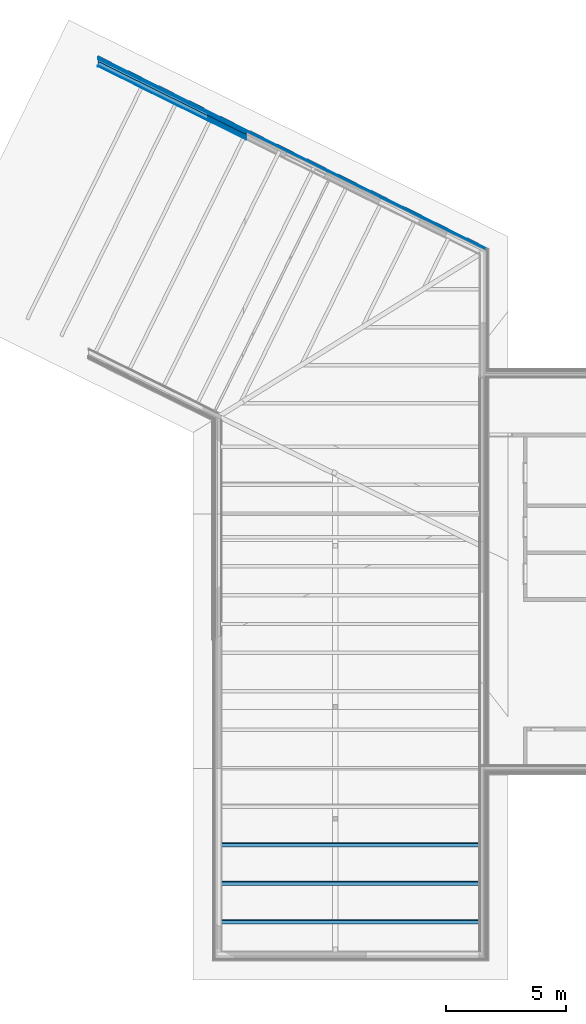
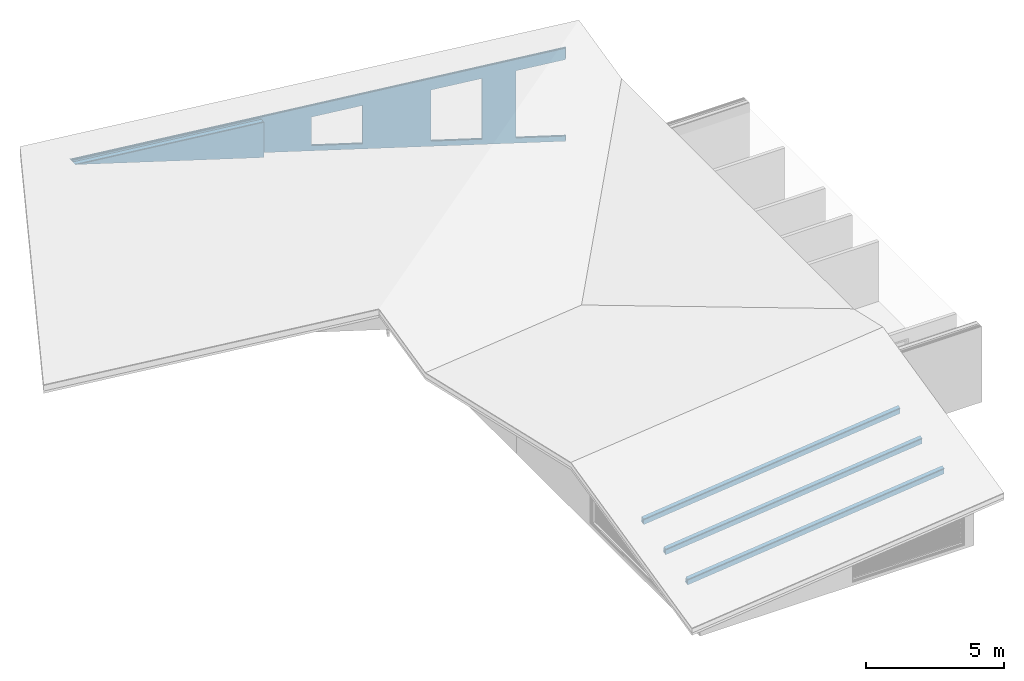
# One storey, part 9 of 14: 10 walls, 6 roofs, 9 openings.
"""IFC4 building model written with IfcOpenShell, lengths in metres."""

from ifc_helpers import new_model, entity, si_unit, converted_unit, derived_unit, frame, origin, origin_with_axes, place, context, subcontext, project, spatial, polyline, outline, extrude, clip, halfspace, bounded_halfspace, faceted_brep, material, element, save


model = new_model("IFC4")

# Units and contexts
model_context = context("Model", 3, precision=1e-05, world=origin())
body_context = subcontext(model_context, "Body", "Model", "MODEL_VIEW")
ifc_project = project(units=[si_unit("LENGTHUNIT", "METRE"), si_unit("AREAUNIT", "SQUARE_METRE"), si_unit("VOLUMEUNIT", "CUBIC_METRE"), si_unit("MASSUNIT", "GRAM", prefix="KILO"), converted_unit("PLANEANGLEUNIT", "DEGREE", entity("IfcPlaneAngleMeasure", 0.0174532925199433), si_unit("PLANEANGLEUNIT", "RADIAN"), dimensions=[0, 0, 0, 0, 0, 0, 0]), derived_unit("THERMALTRANSMITTANCEUNIT", [(si_unit("POWERUNIT", "WATT"), 1), (si_unit("THERMODYNAMICTEMPERATUREUNIT", "KELVIN"), -1), (si_unit("LENGTHUNIT", "METRE"), -2)]), derived_unit("VOLUMETRICFLOWRATEUNIT", [(si_unit("LENGTHUNIT", "METRE"), 3), (converted_unit("TIMEUNIT", "hour", entity("IfcTimeMeasure", 3600.0), si_unit("TIMEUNIT", "SECOND"), dimensions=[0, 0, 1, 0, 0, 0, 0]), -1), (si_unit("LENGTHUNIT", "METRE"), -1)])], contexts=[model_context])

# Site, building, storey
site_placement = place(None, origin())
site = spatial("IfcSite", under=ifc_project, at=site_placement, Name="Psychiatrie Neubau Wunstorf", CompositionType="ELEMENT")
building_placement = place(site_placement, origin())
building = spatial("IfcBuilding", under=site, at=building_placement, Name="Neubau H1 Sozialzentrum", CompositionType="ELEMENT")
storey_placement = place(building_placement, frame((0.0, 0.0, 4.45)))
storey = spatial("IfcBuildingStorey", under=building, at=storey_placement, Name="H1 Ebene +1", CompositionType="ELEMENT", Elevation=4.45)

# Wall, openings
ifc_material_1 = material(Name="WA-KL")
wall_1_placement = place(storey_placement, frame((-14.8472700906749, 38.3394423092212, -0.1), z_axis=(0.0, 0.0, 1.0), x_axis=(0.896905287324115, -0.442222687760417, 0.0)))
wall_1 = element("IfcWall", 1, at=wall_1_placement, inside=storey, material=ifc_material_1, context=body_context, shape_type="Clipping", body=[
    clip(extrude(outline(polyline([(-2.17881447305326, 4.41901846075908), (8.96254564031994, 4.41901846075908), (8.95071234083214, 4.4430184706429), (-2.19015663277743, 4.44301847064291), (-2.17881447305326, 4.41901846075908)])), frame((2.17881447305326, -4.41901846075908, 0.0), z_axis=(0.0, 0.0, 1.0), x_axis=(1.0, 0.0, 0.0)), (0.0, 0.0, 1.0), 4.13117661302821), halfspace(frame((5.56488619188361, 0.0120000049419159, 2.84989243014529), z_axis=(0.222899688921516, 0.105378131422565, -0.969129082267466), x_axis=(0.9745551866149, 0.0, 0.224147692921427)), True)),
])
opening_1_placement = place(wall_1_placement, frame((2.25706391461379, -0.73376895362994, 0.23)))
element("IfcOpeningElement", 2, at=opening_1_placement, cuts=wall_1, Name="Fensteröffnung", ObjectType="Opening", context=body_context, shape_type="Brep", body=[
    faceted_brep([(1.48821232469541, 0.733768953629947, 0.0), (1.48821232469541, 0.75776896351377, 0.0), (-0.361787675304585, 0.757768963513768, 0.0), (-0.361787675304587, 0.733768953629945, 0.0), (1.48821232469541, 0.75776896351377, 1.69447304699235), (1.48821232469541, 0.733768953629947, 1.69186340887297), (-0.361787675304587, 0.733768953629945, 1.26636340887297), (-0.361787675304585, 0.757768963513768, 1.26897304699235)], [[[0, 1, 2, 3]], [[4, 5, 6, 7]], [[1, 0, 5, 4]], [[2, 1, 4, 7]], [[3, 2, 7, 6]], [[0, 3, 6, 5]]], orient=[[False], [False], [False], [False], [False], [False]]),
])
opening_2_placement = place(wall_1_placement, frame((9.34527903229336, 0.0, 0.23)))
element("IfcOpeningElement", 3, at=opening_2_placement, cuts=wall_1, Name="Fensteröffnung", ObjectType="Opening", context=body_context, shape_type="Brep", body=[
    faceted_brep([(1.79608108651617, 0.0, 0.0), (0.0, 0.0, 0.0), (0.0, 0.0, 2.97986405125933), (1.79608108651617, 0.0, 3.39296270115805), (0.0, 0.0240000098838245, 0.0), (0.0, 0.0240000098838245, 2.9824736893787), (1.81100646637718, 0.0240000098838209, 0.0), (1.81100646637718, 0.0240000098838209, 3.39900517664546)], [[[0, 1, 2, 3]], [[1, 4, 5, 2]], [[4, 6, 7, 5]], [[6, 0, 3, 7]], [[7, 3, 2, 5]], [[0, 6, 4, 1]]], orient=[[False], [False], [False], [False], [False], [False]]),
])
opening_3_placement = place(wall_1_placement, frame((6.60706670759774, -0.733768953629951, 0.23)))
element("IfcOpeningElement", 4, at=opening_3_placement, cuts=wall_1, Name="Fensteröffnung", ObjectType="Opening", context=body_context, shape_type="Brep", body=[
    faceted_brep([(1.48821232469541, 0.733768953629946, 0.0), (1.48821232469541, 0.757768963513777, 0.0), (-0.361787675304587, 0.757768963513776, 0.0), (-0.361787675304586, 0.733768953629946, 0.0), (1.48821232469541, 0.757768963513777, 2.69497368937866), (1.48821232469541, 0.733768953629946, 2.69236405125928), (-0.361787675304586, 0.733768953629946, 2.26686405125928), (-0.361787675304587, 0.757768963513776, 2.26947368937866)], [[[0, 1, 2, 3]], [[4, 5, 6, 7]], [[1, 0, 5, 4]], [[2, 1, 4, 7]], [[3, 2, 7, 6]], [[0, 3, 6, 5]]], orient=[[False], [False], [False], [False], [False], [False]]),
])

ifc_material_2 = material(Name="WA-TL")
wall_2_placement = place(storey_placement, frame((-14.8468295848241, 38.36598380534, -0.1), z_axis=(0.0, 0.0, 1.0), x_axis=(0.896905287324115, -0.442222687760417, 0.0)))
wall_2 = element("IfcWall", 5, at=wall_2_placement, inside=storey, material=ifc_material_2, context=body_context, shape_type="Clipping", body=[
    clip(extrude(outline(polyline([(-2.18395137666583, 4.42943700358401), (8.98367627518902, 4.42943700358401), (8.97184297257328, 4.45343701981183), (-2.1952935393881, 4.45343701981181), (-2.18395137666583, 4.42943700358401)])), frame((2.18395137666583, -4.42943700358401, 0.0), z_axis=(0.0, 0.0, 1.0), x_axis=(1.0, 0.0, 0.0)), (0.0, 0.0, 1.0), 4.1372190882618), halfspace(frame((5.57801995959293, 0.0120000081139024, 2.85291413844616), z_axis=(0.222899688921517, 0.105378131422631, -0.969129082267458), x_axis=(0.974555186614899, 5.55111512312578e-17, 0.224147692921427)), True)),
])
opening_4_placement = place(wall_2_placement, frame((2.26840607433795, -0.733768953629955, 0.23)))
element("IfcOpeningElement", 6, at=opening_4_placement, cuts=wall_2, Name="Fensteröffnung", ObjectType="Opening", context=body_context, shape_type="Brep", body=[
    faceted_brep([(1.48821232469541, 0.733768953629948, 0.0), (1.48821232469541, 0.757768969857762, 0.0), (-0.361787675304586, 0.757768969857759, 0.0), (-0.361787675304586, 0.733768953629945, 0.0), (1.48821232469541, 0.757768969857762, 1.69708268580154), (1.48821232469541, 0.733768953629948, 1.69447304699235), (-0.361787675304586, 0.733768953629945, 1.26897304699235), (-0.361787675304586, 0.757768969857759, 1.27158268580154)], [[[0, 1, 2, 3]], [[4, 5, 6, 7]], [[1, 0, 5, 4]], [[2, 1, 4, 7]], [[3, 2, 7, 6]], [[0, 3, 6, 5]]], orient=[[False], [False], [False], [False], [False], [False]]),
])
opening_5_placement = place(wall_2_placement, frame((9.35662119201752, 0.0, 0.23)))
element("IfcOpeningElement", 7, at=opening_5_placement, cuts=wall_2, Name="Fensteröffnung", ObjectType="Opening", context=body_context, shape_type="Brep", body=[
    faceted_brep([(1.81100646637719, 0.0, 0.0), (0.0, 0.0, 0.0), (0.0, 0.0, 2.98247368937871), (1.81100646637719, 0.0, 3.39900517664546), (0.0, 0.0240000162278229, 0.0), (0.0, 0.0240000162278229, 2.9850833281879), (1.82593185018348, 0.0240000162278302, 0.0), (1.82593185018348, 0.0240000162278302, 3.40504765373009)], [[[0, 1, 2, 3]], [[1, 4, 5, 2]], [[4, 6, 7, 5]], [[6, 0, 3, 7]], [[7, 3, 2, 5]], [[0, 6, 4, 1]]], orient=[[False], [False], [False], [False], [False], [False]]),
])
opening_6_placement = place(wall_2_placement, frame((6.6184088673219, -0.733768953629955, 0.23)))
element("IfcOpeningElement", 8, at=opening_6_placement, cuts=wall_2, Name="Fensteröffnung", ObjectType="Opening", context=body_context, shape_type="Brep", body=[
    faceted_brep([(1.48821232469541, 0.733768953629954, 0.0), (1.48821232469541, 0.757768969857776, 0.0), (-0.36178767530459, 0.757768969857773, 0.0), (-0.361787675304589, 0.733768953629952, 0.0), (1.48821232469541, 0.757768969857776, 2.69758332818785), (1.48821232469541, 0.733768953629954, 2.69497368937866), (-0.361787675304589, 0.733768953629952, 2.26947368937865), (-0.36178767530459, 0.757768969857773, 2.27208332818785)], [[[0, 1, 2, 3]], [[4, 5, 6, 7]], [[1, 0, 5, 4]], [[2, 1, 4, 7]], [[3, 2, 7, 6]], [[0, 3, 6, 5]]], orient=[[False], [False], [False], [False], [False], [False]]),
])

ifc_material_3 = material(Name="WA-HS")
wall_3_placement = place(storey_placement, frame((-14.8463890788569, 38.3925253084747, -0.1), z_axis=(0.0, 0.0, 1.0), x_axis=(0.896905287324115, -0.442222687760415, 0.0)))
wall_3 = element("IfcWall", 9, at=wall_3_placement, inside=storey, material=ifc_material_3, context=body_context, shape_type="Clipping", body=[
    clip(extrude(outline(polyline([(-2.18908828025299, 4.43985554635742), (9.00480690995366, 4.43985554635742), (8.98409864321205, 4.4818555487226), (-2.20893705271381, 4.48185554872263), (-2.18908828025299, 4.43985554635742)])), frame((2.18908828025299, -4.43985554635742, 0.0), z_axis=(0.0, 0.0, 1.0), x_axis=(1.0, 0.0, 0.0)), (0.0, 0.0, 1.0), 4.14326156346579), halfspace(frame((5.58680833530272, 0.0210000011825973, 2.85591501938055), z_axis=(0.222899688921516, 0.105378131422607, -0.969129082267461), x_axis=(0.974555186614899, 0.0, 0.224147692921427)), True)),
])
opening_7_placement = place(wall_3_placement, frame((2.27974823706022, -0.733768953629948, 0.23)))
element("IfcOpeningElement", 10, at=opening_7_placement, cuts=wall_3, Name="Fensteröffnung", ObjectType="Opening", context=body_context, shape_type="Brep", body=[
    faceted_brep([(1.48821232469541, 0.733768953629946, 0.0), (1.48821232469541, 0.775768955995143, 0.0), (-0.361787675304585, 0.775768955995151, 0.0), (-0.361787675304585, 0.733768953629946, 0.0), (1.48821232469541, 0.775768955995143, 1.70164955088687), (1.48821232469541, 0.733768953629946, 1.69708268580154), (-0.361787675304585, 0.733768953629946, 1.27158268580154), (-0.361787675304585, 0.775768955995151, 1.27614955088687)], [[[0, 1, 2, 3]], [[4, 5, 6, 7]], [[1, 0, 5, 4]], [[2, 1, 4, 7]], [[3, 2, 7, 6]], [[0, 3, 6, 5]]], orient=[[False], [False], [False], [False], [False], [False]]),
])
opening_8_placement = place(wall_3_placement, frame((9.36796335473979, 0.0, 0.23)))
element("IfcOpeningElement", 11, at=opening_8_placement, cuts=wall_3, Name="Fensteröffnung", ObjectType="Opening", context=body_context, shape_type="Brep", body=[
    faceted_brep([(1.82593185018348, 0.0, 0.0), (0.0, 0.0, 0.0), (0.0, 0.0, 2.9850833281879), (1.82593185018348, 0.0, 3.4050476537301), (0.0, 0.0420000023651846, 0.0), (0.0, 0.0420000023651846, 2.98965019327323), (1.85205125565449, 0.042000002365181, 0.0), (1.85205125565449, 0.042000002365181, 3.41562198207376)], [[[0, 1, 2, 3]], [[1, 4, 5, 2]], [[4, 6, 7, 5]], [[6, 0, 3, 7]], [[7, 3, 2, 5]], [[0, 6, 4, 1]]], orient=[[False], [False], [False], [False], [False], [False]]),
])
opening_9_placement = place(wall_3_placement, frame((6.62975103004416, -0.733768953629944, 0.23)))
element("IfcOpeningElement", 12, at=opening_9_placement, cuts=wall_3, Name="Fensteröffnung", ObjectType="Opening", context=body_context, shape_type="Brep", body=[
    faceted_brep([(1.48821232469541, 0.733768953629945, 0.0), (1.48821232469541, 0.775768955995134, 0.0), (-0.361787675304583, 0.775768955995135, 0.0), (-0.361787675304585, 0.733768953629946, 0.0), (1.48821232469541, 0.775768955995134, 2.70215019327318), (1.48821232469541, 0.733768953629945, 2.69758332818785), (-0.361787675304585, 0.733768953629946, 2.27208332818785), (-0.361787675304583, 0.775768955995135, 2.27665019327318)], [[[0, 1, 2, 3]], [[4, 5, 6, 7]], [[1, 0, 5, 4]], [[2, 1, 4, 7]], [[3, 2, 7, 6]], [[0, 3, 6, 5]]], orient=[[False], [False], [False], [False], [False], [False]]),
])

# Walls
ifc_material_4 = material(Name="WA-LB")
wall_4_placement = place(storey_placement, frame((-21.0160526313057, 41.0331219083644, -0.111786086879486), z_axis=(0.0, 0.0, 1.0), x_axis=(0.896905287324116, -0.442222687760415, 0.0)))
element("IfcWall", 13, at=wall_4_placement, inside=storey, material=ifc_material_4, context=body_context, shape_type="Clipping", body=[
    clip(clip(clip(clip(extrude(outline(polyline([(-1.34379050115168, 2.72544317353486), (5.5276774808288, 2.72544317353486), (5.51066422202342, 2.76144322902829), (-1.36080989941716, 2.76144322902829), (-1.34379050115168, 2.72544317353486)])), frame((1.34379050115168, -2.72544317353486, 0.0), z_axis=(0.0, 0.0, 1.0), x_axis=(1.0, 0.0, 0.0)), (0.0, 0.0, 1.0), 1.58043904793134), bounded_halfspace(frame((3.45284775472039, 0.0180000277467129, 0.0117860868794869), z_axis=(0.0, 0.0, 1.0), x_axis=(0.427404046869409, -0.904060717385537, 0.0)), True, origin_with_axes(), polyline([(0.0342244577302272, 0.0360000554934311), (0.0512438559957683, 0.0), (6.87146798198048, 0.0), (6.8544547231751, 0.03600005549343), (0.0342244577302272, 0.0360000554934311)]))), bounded_halfspace(frame((0.0171122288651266, 0.0180000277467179, 0.00589304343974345), z_axis=(-0.2228996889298, -0.1053781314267, 0.969129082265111), x_axis=(0.427404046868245, -0.904060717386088, 0.0)), True, origin_with_axes(), polyline([(-0.0170193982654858, 0.036000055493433), (0.0, 0.0), (0.0512438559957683, 0.0), (0.0342244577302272, 0.0360000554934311), (-0.0170193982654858, 0.036000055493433)]))), bounded_halfspace(frame((3.45284775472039, 0.0180000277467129, 0.796112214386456), z_axis=(0.222899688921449, 0.105378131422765, -0.969129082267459), x_axis=(0.427404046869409, -0.904060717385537, 0.0)), True, origin_with_axes(), polyline([(0.0342244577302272, 0.0360000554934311), (0.0512438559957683, 0.0), (6.87146798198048, 0.0), (6.8544547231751, 0.03600005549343), (0.0342244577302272, 0.0360000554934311)]))), bounded_halfspace(frame((0.0171122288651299, 0.0180000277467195, 0.0117860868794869), z_axis=(0.0, 0.0, -1.0), x_axis=(1.0, 1.94289029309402e-14, 0.0)), True, origin_with_axes(), polyline([(0.0, 0.0), (0.0512438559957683, 0.0), (0.0342244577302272, 0.0360000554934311), (-0.0170193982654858, 0.036000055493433), (0.0, 0.0)]))),
])
ifc_material_5 = material(Name="WA-HD")
wall_5_placement = place(storey_placement, frame((-21.0153973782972, 41.0729369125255, -0.111786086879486), z_axis=(0.0, 0.0, 1.0), x_axis=(0.896905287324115, -0.442222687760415, 0.0)))
element("IfcWall", 14, at=wall_5_placement, inside=storey, material=ifc_material_5, context=body_context, shape_type="Clipping", body=[
    clip(clip(clip(clip(extrude(outline(polyline([(-1.34379170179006, 2.72544560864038), (5.52768241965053, 2.72544560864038), (5.4520680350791, 2.88544564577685), (-1.41943337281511, 2.88544564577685), (-1.34379170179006, 2.72544560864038)])), frame((1.34379170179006, -2.72544560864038, 0.0), z_axis=(0.0, 0.0, 1.0), x_axis=(1.0, 0.0, 0.0)), (0.0, 0.0, 1.0), 1.58044532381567), bounded_halfspace(frame((3.42354497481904, 0.0800000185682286, 0.0117860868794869), z_axis=(0.0, 0.0, 1.0), x_axis=(0.427404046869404, -0.904060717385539, 0.0)), True, origin_with_axes(), polyline([(-0.0243978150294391, 0.160000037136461), (0.0512438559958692, 0.0), (6.87147412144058, 0.0), (6.79585973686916, 0.160000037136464), (-0.0243978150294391, 0.160000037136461)]))), bounded_halfspace(frame((-0.0121989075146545, 0.0800000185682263, 0.00589304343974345), z_axis=(-0.222899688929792, -0.105378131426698, 0.969129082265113), x_axis=(0.427404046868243, -0.904060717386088, -5.13898901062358e-15)), True, origin_with_axes(), polyline([(-0.0756416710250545, 0.160000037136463), (0.0, 0.0), (0.0512438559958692, 0.0), (-0.0243978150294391, 0.160000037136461), (-0.0756416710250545, 0.160000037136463)]))), bounded_halfspace(frame((3.42354497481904, 0.080000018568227, 0.796114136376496), z_axis=(0.22289968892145, 0.105378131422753, -0.96912908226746), x_axis=(0.427404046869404, -0.904060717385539, 0.0)), True, origin_with_axes(), polyline([(-0.0243978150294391, 0.160000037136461), (0.0512438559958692, 0.0), (6.87147412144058, 0.0), (6.79585973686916, 0.160000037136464), (-0.0243978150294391, 0.160000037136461)]))), bounded_halfspace(frame((-0.0121989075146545, 0.0800000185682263, 0.0117860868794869), z_axis=(0.0, 0.0, -1.0), x_axis=(1.0, 9.2148511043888e-15, 0.0)), True, origin_with_axes(), polyline([(0.0, 0.0), (0.0512438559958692, 0.0), (-0.0243978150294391, 0.160000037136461), (-0.0756416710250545, 0.160000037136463), (0.0, 0.0)]))),
])
ifc_material_6 = material(Name="WA-DL")
wall_6_placement = place(storey_placement, frame((-21.0124851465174, 41.2498922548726, -0.111786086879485), z_axis=(0.0, 0.0, 1.0), x_axis=(0.896905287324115, -0.442222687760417, 0.0)))
element("IfcWall", 15, at=wall_6_placement, inside=storey, material=ifc_material_6, context=body_context, shape_type="Clipping", body=[
    clip(clip(clip(clip(extrude(outline(polyline([(-1.34379703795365, 2.72545643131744), (5.52770436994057, 2.72545643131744), (5.4898971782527, 2.80545644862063), (-1.38161787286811, 2.80545644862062), (-1.34379703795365, 2.72545643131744)])), frame((1.34379703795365, -2.72545643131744, 0.0), z_axis=(0.0, 0.0, 1.0), x_axis=(1.0, 0.0, 0.0)), (0.0, 0.0, 1.0), 1.58044846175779), bounded_halfspace(frame((3.44246562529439, 0.0400000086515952, 0.011786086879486), z_axis=(0.0, 0.0, 1.0), x_axis=(0.427404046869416, -0.904060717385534, 0.0)), True, origin_with_axes(), polyline([(0.0134230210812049, 0.0800000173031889), (0.0512438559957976, 0.0), (6.87150140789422, 0.0), (6.83369421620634, 0.0800000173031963), (0.0134230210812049, 0.0800000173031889)]))), bounded_halfspace(frame((0.00671151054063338, 0.0400000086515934, 0.00589304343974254), z_axis=(-0.222899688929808, -0.105378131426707, 0.969129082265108), x_axis=(0.427404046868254, -0.904060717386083, 0.0)), True, origin_with_axes(), polyline([(-0.0378208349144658, 0.0800000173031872), (0.0, 0.0), (0.0512438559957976, 0.0), (0.0134230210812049, 0.0800000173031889), (-0.0378208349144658, 0.0800000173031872)]))), bounded_halfspace(frame((3.44246562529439, 0.0400000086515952, 0.796116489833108), z_axis=(0.22289968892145, 0.105378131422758, -0.96912908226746), x_axis=(0.427404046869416, -0.904060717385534, 0.0)), True, origin_with_axes(), polyline([(0.0134230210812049, 0.0800000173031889), (0.0512438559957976, 0.0), (6.87150140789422, 0.0), (6.83369421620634, 0.0800000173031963), (0.0134230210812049, 0.0800000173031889)]))), bounded_halfspace(frame((0.00671151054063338, 0.0400000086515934, 0.011786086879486), z_axis=(0.0, 0.0, -1.0), x_axis=(1.0, -1.34336985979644e-14, 0.0)), True, origin_with_axes(), polyline([(0.0, 0.0), (0.0512438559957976, 0.0), (0.0134230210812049, 0.0800000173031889), (-0.0378208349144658, 0.0800000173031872), (0.0, 0.0)]))),
])
ifc_material_7 = material(Name="WA-LB")
wall_7_placement = place(storey_placement, frame((-21.0110290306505, 41.3383699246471, -0.111786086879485), z_axis=(0.0, 0.0, 1.0), x_axis=(0.896905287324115, -0.442222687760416, 0.0)))
element("IfcWall", 16, at=wall_7_placement, inside=storey, material=ifc_material_7, context=body_context, shape_type="Clipping", body=[
    clip(clip(clip(clip(extrude(outline(polyline([(-1.34379970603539, 2.72546184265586), (5.52771534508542, 2.72546184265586), (5.51070210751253, 2.76146185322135), (-1.36081908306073, 2.76146185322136), (-1.34379970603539, 2.72546184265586)])), frame((1.34379970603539, -2.72546184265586, 0.0), z_axis=(0.0, 0.0, 1.0), x_axis=(1.0, 0.0, 0.0)), (0.0, 0.0, 1.0), 1.58044987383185), bounded_halfspace(frame((3.45287129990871, 0.0180000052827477, 0.011786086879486), z_axis=(0.0, 0.0, 1.0), x_axis=(0.427404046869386, -0.904060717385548, 0.0)), True, origin_with_axes(), polyline([(0.0342244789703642, 0.0360000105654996), (0.0512438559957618, 0.0), (6.87151505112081, 0.0), (6.85450181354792, 0.0360000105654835), (0.0342244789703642, 0.0360000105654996)]))), bounded_halfspace(frame((0.0171122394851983, 0.0180000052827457, 0.00589304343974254), z_axis=(-0.222899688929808, -0.105378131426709, 0.969129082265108), x_axis=(0.427404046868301, -0.904060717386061, 0.0)), True, origin_with_axes(), polyline([(-0.0170193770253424, 0.0360000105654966), (0.0, 0.0), (0.0512438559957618, 0.0), (0.0342244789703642, 0.0360000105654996), (-0.0170193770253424, 0.0360000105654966)]))), bounded_halfspace(frame((3.45287129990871, 0.0180000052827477, 0.796117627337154), z_axis=(0.22289968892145, 0.105378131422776, -0.969129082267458), x_axis=(0.427404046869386, -0.904060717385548, 0.0)), True, origin_with_axes(), polyline([(0.0342244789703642, 0.0360000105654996), (0.0512438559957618, 0.0), (6.87151505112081, 0.0), (6.85450181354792, 0.0360000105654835), (0.0342244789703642, 0.0360000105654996)]))), bounded_halfspace(frame((0.0171122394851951, 0.0180000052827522, 0.011786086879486), z_axis=(0.0, 0.0, -1.0), x_axis=(1.0, -4.26880752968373e-14, 0.0)), True, origin_with_axes(), polyline([(0.0, 0.0), (0.0512438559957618, 0.0), (0.0342244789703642, 0.0360000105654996), (-0.0170193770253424, 0.0360000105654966), (0.0, 0.0)]))),
])
ifc_material_8 = material(Name="WA-KL")
wall_8_placement = place(storey_placement, frame((-21.0103737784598, 41.3781848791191, -0.111786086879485), z_axis=(0.0, 0.0, 1.0), x_axis=(0.896905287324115, -0.442222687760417, 0.0)))
element("IfcWall", 17, at=wall_8_placement, inside=storey, material=ifc_material_8, context=body_context, shape_type="Clipping", body=[
    clip(clip(clip(clip(extrude(outline(polyline([(-1.34380090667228, 2.72546427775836), (5.52772028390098, 2.72546427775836), (5.51637812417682, 2.74946428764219), (-1.35514715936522, 2.74946428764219), (-1.34380090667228, 2.72546427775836)])), frame((1.34380090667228, -2.72546427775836, 0.0), z_axis=(0.0, 0.0, 1.0), x_axis=(1.0, 0.0, 0.0)), (0.0, 0.0, 1.0), 1.58045081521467), bounded_halfspace(frame((3.45571042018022, 0.0120000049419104, 0.011786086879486), z_axis=(0.0, 0.0, 1.0), x_axis=(0.427404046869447, -0.904060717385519, 0.0)), True, origin_with_axes(), polyline([(0.0398976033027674, 0.024000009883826), (0.0512438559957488, 0.0), (6.87152119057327, 0.0), (6.8601790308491, 0.0240000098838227), (0.0398976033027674, 0.024000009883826)]))), bounded_halfspace(frame((0.0199488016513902, 0.0120000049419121, 0.00589304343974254), z_axis=(-0.222899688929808, -0.105378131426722, 0.969129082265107), x_axis=(0.4274040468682, -0.904060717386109, -3.4259920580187e-14)), True, origin_with_axes(), polyline([(-0.0113462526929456, 0.0240000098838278), (0.0, 0.0), (0.0512438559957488, 0.0), (0.0398976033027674, 0.024000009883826), (-0.0113462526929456, 0.0240000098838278)]))), bounded_halfspace(frame((3.45571042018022, 0.0120000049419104, 0.796118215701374), z_axis=(0.222899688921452, 0.105378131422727, -0.969129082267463), x_axis=(0.427404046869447, -0.904060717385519, 0.0)), True, origin_with_axes(), polyline([(0.0398976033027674, 0.024000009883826), (0.0512438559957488, 0.0), (6.87152119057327, 0.0), (6.8601790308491, 0.0240000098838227), (0.0398976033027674, 0.024000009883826)]))), bounded_halfspace(frame((0.0199488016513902, 0.0120000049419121, 0.011786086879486), z_axis=(0.0, 0.0, -1.0), x_axis=(1.0, 2.36477504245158e-14, 0.0)), True, origin_with_axes(), polyline([(0.0, 0.0), (0.0512438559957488, 0.0), (0.0398976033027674, 0.024000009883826), (-0.0113462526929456, 0.0240000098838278), (0.0, 0.0)]))),
])
ifc_material_9 = material(Name="WA-TL")
wall_9_placement = place(storey_placement, frame((-21.0099369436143, 41.4047281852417, -0.111786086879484), z_axis=(0.0, 0.0, 1.0), x_axis=(0.896905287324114, -0.442222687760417, 0.0)))
element("IfcWall", 18, at=wall_9_placement, inside=storey, material=ifc_material_9, context=body_context, shape_type="Clipping", body=[
    clip(clip(clip(clip(extrude(outline(polyline([(-1.34380170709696, 2.72546590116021), (5.52772357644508, 2.72546590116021), (5.51638141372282, 2.74946591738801), (-1.35514796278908, 2.74946591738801), (-1.34380170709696, 2.72546590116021)])), frame((1.34380170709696, -2.72546590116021, 0.0), z_axis=(0.0, 0.0, 1.0), x_axis=(1.0, 0.0, 0.0)), (0.0, 0.0, 1.0), 1.58045175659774), bounded_halfspace(frame((3.45571246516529, 0.012000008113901, 0.0117860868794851), z_axis=(0.0, 0.0, 1.0), x_axis=(0.427404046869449, -0.904060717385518, 0.0)), True, origin_with_axes(), polyline([(0.0398976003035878, 0.0240000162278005), (0.0512438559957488, 0.0), (6.87152528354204, 0.0), (6.86018312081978, 0.0240000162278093), (0.0398976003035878, 0.0240000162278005)]))), bounded_halfspace(frame((0.0199488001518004, 0.0120000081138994, 0.00589304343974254), z_axis=(-0.2228996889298, -0.1053781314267, 0.969129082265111), x_axis=(0.427404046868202, -0.904060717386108, 0.0)), True, origin_with_axes(), polyline([(-0.0113462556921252, 0.0240000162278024), (0.0, 0.0), (0.0512438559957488, 0.0), (0.0398976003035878, 0.0240000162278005), (-0.0113462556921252, 0.0240000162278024)]))), bounded_halfspace(frame((3.45571246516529, 0.012000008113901, 0.796118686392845), z_axis=(0.222899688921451, 0.105378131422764, -0.969129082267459), x_axis=(0.427404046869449, -0.904060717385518, 0.0)), True, origin_with_axes(), polyline([(0.0398976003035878, 0.0240000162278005), (0.0512438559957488, 0.0), (6.87152528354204, 0.0), (6.86018312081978, 0.0240000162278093), (0.0398976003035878, 0.0240000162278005)]))), bounded_halfspace(frame((0.0199488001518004, 0.0120000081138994, 0.0117860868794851), z_axis=(0.0, 0.0, -1.0), x_axis=(1.0, 2.36477504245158e-14, 0.0)), True, origin_with_axes(), polyline([(0.0, 0.0), (0.0512438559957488, 0.0), (0.0398976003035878, 0.0240000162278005), (-0.0113462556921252, 0.0240000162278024), (0.0, 0.0)]))),
])
ifc_material_10 = material(Name="WA-HS")
wall_10_placement = place(storey_placement, frame((-21.0095001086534, 41.4312714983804, -0.111786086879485), z_axis=(0.0, 0.0, 1.0), x_axis=(0.896905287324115, -0.442222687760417, 0.0)))
element("IfcWall", 19, at=wall_10_placement, inside=storey, material=ifc_material_10, context=body_context, shape_type="Clipping", body=[
    clip(clip(clip(clip(extrude(outline(polyline([(-1.34380250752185, 2.72546752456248), (5.52772686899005, 2.72546752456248), (5.50787809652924, 2.76746752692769), (-1.36365844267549, 2.7674675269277), (-1.34380250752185, 2.72546752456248)])), frame((1.34380250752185, -2.72546752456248, 0.0), z_axis=(0.0, 0.0, 1.0), x_axis=(1.0, 0.0, 0.0)), (0.0, 0.0, 1.0), 1.58045340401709), bounded_halfspace(frame((3.45146043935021, 0.0210000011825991, 0.0117860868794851), z_axis=(0.0, 0.0, 1.0), x_axis=(0.427404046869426, -0.904060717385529, 0.0)), True, origin_with_axes(), polyline([(0.0313879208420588, 0.0420000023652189), (0.0512438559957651, 0.0), (6.8715293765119, 0.0), (6.85168060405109, 0.0420000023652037), (0.0313879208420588, 0.0420000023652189)]))), bounded_halfspace(frame((0.0156939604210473, 0.0210000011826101, 0.00589304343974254), z_axis=(-0.2228996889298, -0.105378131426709, 0.96912908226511), x_axis=(0.427404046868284, -0.904060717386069, 0.0)), True, origin_with_axes(), polyline([(-0.0198559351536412, 0.042000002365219), (0.0, 0.0), (0.0512438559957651, 0.0), (0.0313879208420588, 0.0420000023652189), (-0.0198559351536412, 0.042000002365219)]))), bounded_halfspace(frame((3.4514604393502, 0.0210000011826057, 0.79611933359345), z_axis=(0.22289968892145, 0.105378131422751, -0.969129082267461), x_axis=(0.427404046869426, -0.904060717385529, 0.0)), True, origin_with_axes(), polyline([(0.0313879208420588, 0.0420000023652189), (0.0512438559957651, 0.0), (6.8715293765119, 0.0), (6.85168060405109, 0.0420000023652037), (0.0313879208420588, 0.0420000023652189)]))), bounded_halfspace(frame((0.0156939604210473, 0.0210000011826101, 0.0117860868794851), z_axis=(0.0, 0.0, -1.0), x_axis=(1.0, -1.0325074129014e-14, 0.0)), True, origin_with_axes(), polyline([(0.0, 0.0), (0.0512438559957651, 0.0), (0.0313879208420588, 0.0420000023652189), (-0.0198559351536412, 0.042000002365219), (0.0, 0.0)]))),
])

# Roofs
ifc_material_11 = material(Name="Schwerlast-Deckenprofil")
roof_1_placement = place(storey_placement, frame((-15.8985267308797, 5.39032130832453, 1.064164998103)))
element("IfcRoof", 20, at=roof_1_placement, inside=storey, material=ifc_material_11, PredefinedType="NOTDEFINED", context=body_context, shape_type="Brep", body=[
    faceted_brep([(10.7680016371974, 0.0, 1.17043479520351), (0.0, 0.0, 0.0), (0.0, 0.0, 0.247644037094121), (10.7680016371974, 0.0, 1.41807883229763), (0.0, 0.14, 0.0321999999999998), (0.0, 0.14, 0.279844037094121), (10.7680016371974, 0.14, 1.20263479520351), (10.7680016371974, 0.14, 1.45027883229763)], [[[0, 1, 2, 3]], [[1, 4, 5, 2]], [[4, 6, 7, 5]], [[6, 0, 3, 7]], [[7, 3, 2, 5]], [[0, 6, 4, 1]]], orient=[[False], [False], [False], [False], [False], [False]]),
])
ifc_material_12 = material(Name="Schwerlast-Deckenprofil")
roof_2_placement = place(storey_placement, frame((-15.8985267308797, 6.99032130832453, 1.432164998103)))
element("IfcRoof", 21, at=roof_2_placement, inside=storey, material=ifc_material_12, PredefinedType="NOTDEFINED", context=body_context, shape_type="Brep", body=[
    faceted_brep([(10.7680016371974, 0.0, 1.17043479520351), (0.0, 0.0, 0.0), (0.0, 0.0, 0.247644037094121), (10.7680016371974, 0.0, 1.41807883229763), (0.0, 0.14, 0.0321999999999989), (0.0, 0.14, 0.279844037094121), (10.7680016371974, 0.14, 1.20263479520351), (10.7680016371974, 0.14, 1.45027883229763)], [[[0, 1, 2, 3]], [[1, 4, 5, 2]], [[4, 6, 7, 5]], [[6, 0, 3, 7]], [[7, 3, 2, 5]], [[0, 6, 4, 1]]], orient=[[False], [False], [False], [False], [False], [False]]),
])
ifc_material_13 = material(Name="Schwerlast-Deckenprofil")
roof_3_placement = place(storey_placement, frame((-15.8985267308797, 8.59032130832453, 1.800164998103)))
element("IfcRoof", 22, at=roof_3_placement, inside=storey, material=ifc_material_13, PredefinedType="NOTDEFINED", context=body_context, shape_type="Brep", body=[
    faceted_brep([(10.7680016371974, 0.0, 1.17043479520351), (0.0, 0.0, 0.0), (0.0, 0.0, 0.247644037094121), (10.7680016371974, 0.0, 1.41807883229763), (0.0, 0.14, 0.0321999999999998), (0.0, 0.14, 0.279844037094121), (10.7680016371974, 0.14, 1.20263479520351), (10.7680016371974, 0.14, 1.45027883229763)], [[[0, 1, 2, 3]], [[1, 4, 5, 2]], [[4, 6, 7, 5]], [[6, 0, 3, 7]], [[7, 3, 2, 5]], [[0, 6, 4, 1]]], orient=[[False], [False], [False], [False], [False], [False]]),
])
for number, where in (
    (23, (-15.9008652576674, 5.38208242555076, 1.07468643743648)),
    (24, (-15.9008652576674, 6.98208242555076, 1.44268643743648)),
):
    element("IfcRoof", number, at=place(storey_placement, frame(where)), inside=storey, PredefinedType="NOTDEFINED", context=body_context, shape_type="Brep", body=[
        faceted_brep([(0.00402457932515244, 0.0, 0.235410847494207), (10.7720262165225, 2.85883133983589e-08, 1.40584620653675), (10.7713737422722, 0.0534961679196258, 1.17043535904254), (0.00337210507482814, 0.0534961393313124, 0.0), (10.7680016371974, 0.189973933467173, 1.20145871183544), (0.0, 0.189973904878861, 0.0310233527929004), (10.7686541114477, 0.136477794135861, 1.43686955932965), (0.000652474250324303, 0.136477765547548, 0.266434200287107)], [[[0, 1, 2, 3]], [[3, 2, 4, 5]], [[6, 4, 2, 1]], [[7, 0, 3, 5]], [[5, 4, 6, 7]], [[7, 6, 1, 0]]], orient=[[False], [False], [False], [False], [False], [False]]),
    ])
roof_4_placement = place(storey_placement, frame((-15.9008652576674, 8.58208242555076, 1.81068643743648)))
element("IfcRoof", 25, at=roof_4_placement, inside=storey, PredefinedType="NOTDEFINED", context=body_context, shape_type="Brep", body=[
    faceted_brep([(0.00402457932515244, 0.0, 0.235410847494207), (10.7720262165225, 2.85883143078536e-08, 1.40584620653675), (10.7713737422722, 0.0534961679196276, 1.17043535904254), (0.00337210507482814, 0.0534961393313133, 0.0), (10.7680016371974, 0.189973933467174, 1.20145871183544), (0.0, 0.189973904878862, 0.0310233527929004), (10.7686541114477, 0.136477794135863, 1.43686955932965), (0.000652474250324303, 0.136477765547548, 0.266434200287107)], [[[0, 1, 2, 3]], [[3, 2, 4, 5]], [[6, 4, 2, 1]], [[7, 0, 3, 5]], [[5, 4, 6, 7]], [[7, 6, 1, 0]]], orient=[[False], [False], [False], [False], [False], [False]]),
])

save(model, "model.ifc")
